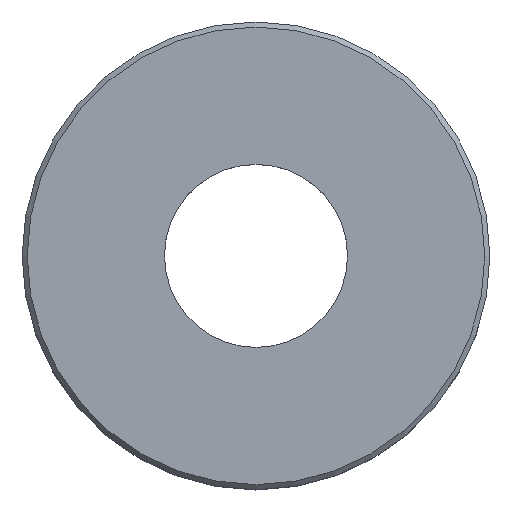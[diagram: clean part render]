
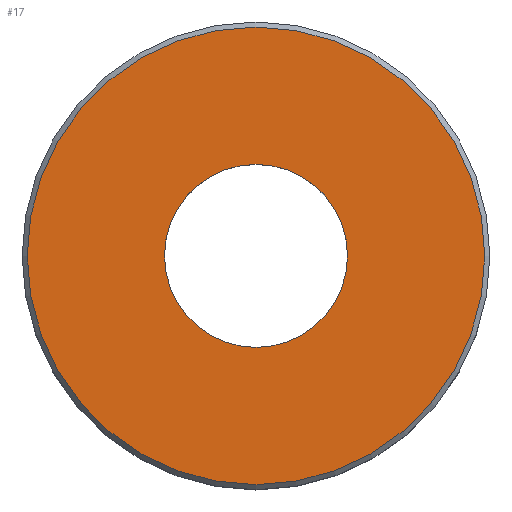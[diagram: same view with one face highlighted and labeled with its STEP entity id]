
A CAD part, top view. The second image highlights one B-rep face of the part: STEP entity #17.
In plain terms, the highlighted planar face has unit normal (0, 0, 1).
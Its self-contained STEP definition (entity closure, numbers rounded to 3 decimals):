
#17 = ADVANCED_FACE('',(#18,#54),#31,.T.);
#18 = FACE_BOUND('',#19,.T.);
#19 = EDGE_LOOP('',(#20));
#20 = ORIENTED_EDGE('',*,*,#21,.T.);
#21 = EDGE_CURVE('',#22,#22,#24,.T.);
#22 = VERTEX_POINT('',#23);
#23 = CARTESIAN_POINT('',(22.5,0.,59.5));
#24 = SURFACE_CURVE('',#25,(#30,#42),.PCURVE_S1.);
#25 = CIRCLE('',#26,22.5);
#26 = AXIS2_PLACEMENT_3D('',#27,#28,#29);
#27 = CARTESIAN_POINT('',(0.,0.,59.5));
#28 = DIRECTION('',(0.,0.,1.));
#29 = DIRECTION('',(1.,0.,-0.));
#30 = PCURVE('',#31,#36);
#31 = PLANE('',#32);
#32 = AXIS2_PLACEMENT_3D('',#33,#34,#35);
#33 = CARTESIAN_POINT('',(0.,0.,59.5));
#34 = DIRECTION('',(0.,0.,1.));
#35 = DIRECTION('',(1.,0.,-0.));
#36 = DEFINITIONAL_REPRESENTATION('',(#37),#41);
#37 = CIRCLE('',#38,22.5);
#38 = AXIS2_PLACEMENT_2D('',#39,#40);
#39 = CARTESIAN_POINT('',(0.,0.));
#40 = DIRECTION('',(1.,0.));
#41 = ( GEOMETRIC_REPRESENTATION_CONTEXT(2) 
PARAMETRIC_REPRESENTATION_CONTEXT() REPRESENTATION_CONTEXT('2D SPACE',''
  ) );
#42 = PCURVE('',#43,#48);
#43 = CONICAL_SURFACE('',#44,23.,0.785);
#44 = AXIS2_PLACEMENT_3D('',#45,#46,#47);
#45 = CARTESIAN_POINT('',(0.,0.,59.));
#46 = DIRECTION('',(-0.,-0.,-1.));
#47 = DIRECTION('',(1.,0.,0.));
#48 = DEFINITIONAL_REPRESENTATION('',(#49),#53);
#49 = LINE('',#50,#51);
#50 = CARTESIAN_POINT('',(-0.,-0.5));
#51 = VECTOR('',#52,1.);
#52 = DIRECTION('',(-1.,0.));
#53 = ( GEOMETRIC_REPRESENTATION_CONTEXT(2) 
PARAMETRIC_REPRESENTATION_CONTEXT() REPRESENTATION_CONTEXT('2D SPACE',''
  ) );
#54 = FACE_BOUND('',#55,.T.);
#55 = EDGE_LOOP('',(#56));
#56 = ORIENTED_EDGE('',*,*,#57,.F.);
#57 = EDGE_CURVE('',#58,#58,#60,.T.);
#58 = VERTEX_POINT('',#59);
#59 = CARTESIAN_POINT('',(9.,0.,59.5));
#60 = SURFACE_CURVE('',#61,(#66,#73),.PCURVE_S1.);
#61 = CIRCLE('',#62,9.);
#62 = AXIS2_PLACEMENT_3D('',#63,#64,#65);
#63 = CARTESIAN_POINT('',(0.,0.,59.5));
#64 = DIRECTION('',(0.,0.,1.));
#65 = DIRECTION('',(1.,0.,-0.));
#66 = PCURVE('',#31,#67);
#67 = DEFINITIONAL_REPRESENTATION('',(#68),#72);
#68 = CIRCLE('',#69,9.);
#69 = AXIS2_PLACEMENT_2D('',#70,#71);
#70 = CARTESIAN_POINT('',(0.,0.));
#71 = DIRECTION('',(1.,0.));
#72 = ( GEOMETRIC_REPRESENTATION_CONTEXT(2) 
PARAMETRIC_REPRESENTATION_CONTEXT() REPRESENTATION_CONTEXT('2D SPACE',''
  ) );
#73 = PCURVE('',#74,#79);
#74 = CYLINDRICAL_SURFACE('',#75,9.);
#75 = AXIS2_PLACEMENT_3D('',#76,#77,#78);
#76 = CARTESIAN_POINT('',(0.,0.,59.5));
#77 = DIRECTION('',(-0.,-0.,-1.));
#78 = DIRECTION('',(1.,0.,0.));
#79 = DEFINITIONAL_REPRESENTATION('',(#80),#84);
#80 = LINE('',#81,#82);
#81 = CARTESIAN_POINT('',(-0.,0.));
#82 = VECTOR('',#83,1.);
#83 = DIRECTION('',(-1.,0.));
#84 = ( GEOMETRIC_REPRESENTATION_CONTEXT(2) 
PARAMETRIC_REPRESENTATION_CONTEXT() REPRESENTATION_CONTEXT('2D SPACE',''
  ) );
